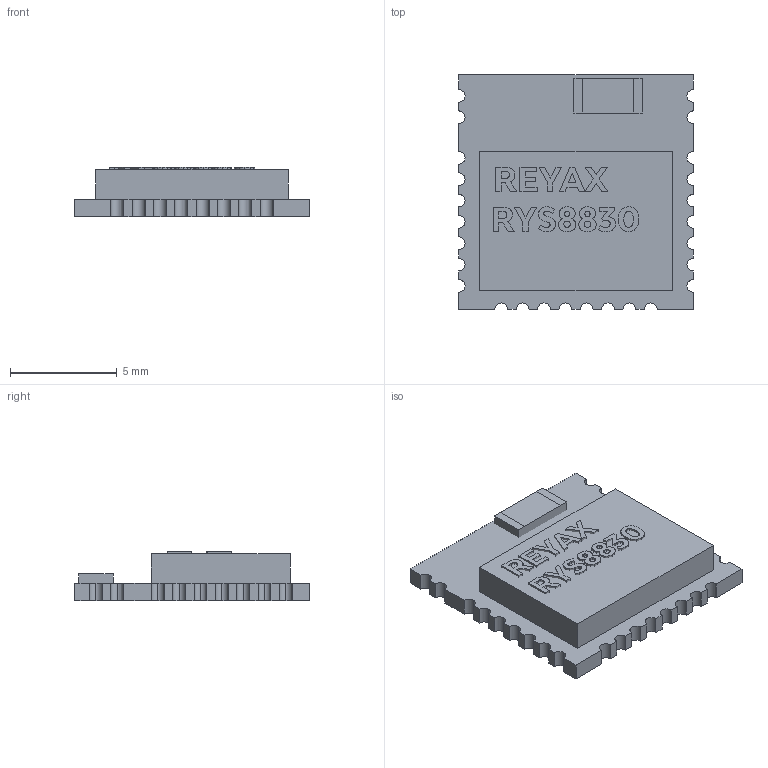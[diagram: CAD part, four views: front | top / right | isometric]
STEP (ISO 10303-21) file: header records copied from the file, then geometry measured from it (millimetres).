
FILE_DESCRIPTION(('FreeCAD Model'),'2;1');
FILE_NAME('Open CASCADE Shape Model','2024-05-02T15:16:16',( 'kicad StepUp'),('ksu MCAD'),'Open CASCADE STEP processor 7.6', 'FreeCAD','Unknown');
FILE_SCHEMA(('AUTOMOTIVE_DESIGN { 1 2 10303 214 0 1 1 1 }'));
Length unit declared in the file: millimetre
Products named in the file (5): RYS8830_v0_colore_; Corps; GGBLA.01.A; Extrude; Extrude001
Assembly tree (4 placements, depth 2):
  RYS8830_v0_colore_
    Corps
    GGBLA.01.A
    Extrude
    Extrude001
Bounding box: 11 x 11 x 2.3 mm (x, y, z)
Volume: 181.8 mm3; surface area: 381.6 mm2
Topology: 14 solids, 14 shells, 354 faces, 2439 edges, 6506 vertices
Faces by surface type: plane 162, extrusion 157, cylinder 35
Entity records: 30769 total; most frequent: CARTESIAN_POINT 11502, DIRECTION 2128, ORIENTED_EDGE 1950, VECTOR 1584, GEOMETRIC_CURVE_SET 1466, TRIMMED_CURVE 1464, LINE 1427, B_SPLINE_CURVE_WITH_KNOTS 1099
